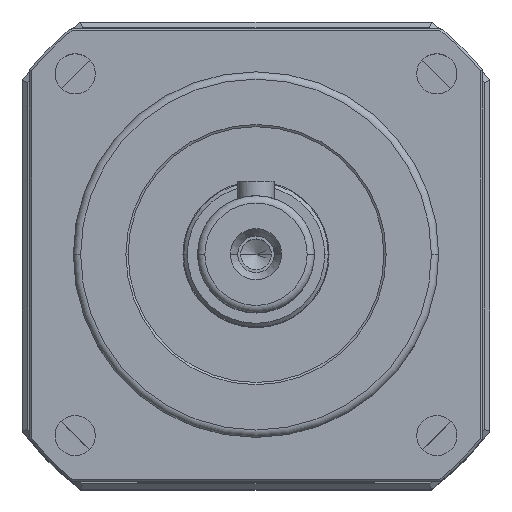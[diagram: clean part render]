
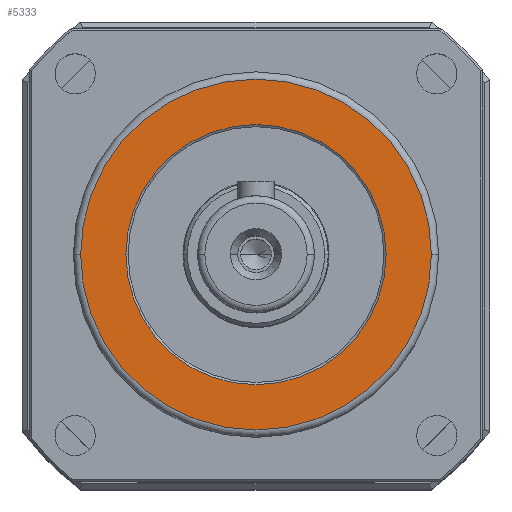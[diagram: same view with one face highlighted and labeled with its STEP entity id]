
A CAD part, top view. The second image highlights one B-rep face of the part: STEP entity #5333.
In plain terms, the highlighted planar face has unit normal (0, 0, 1).
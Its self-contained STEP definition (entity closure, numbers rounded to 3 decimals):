
#501 = DIRECTION ( 'NONE',  ( 0., 0., 1. ) ) ;
#727 = EDGE_LOOP ( 'NONE', ( #5237, #16130 ) ) ;
#733 = CARTESIAN_POINT ( 'NONE',  ( 0., 0., 7. ) ) ;
#887 = VERTEX_POINT ( 'NONE', #2267 ) ;
#994 = VERTEX_POINT ( 'NONE', #13257 ) ;
#1234 = FACE_OUTER_BOUND ( 'NONE', #6270, .T. ) ;
#1845 = CARTESIAN_POINT ( 'NONE',  ( 0., 0., 7. ) ) ;
#1992 = CIRCLE ( 'NONE', #6703, 24. ) ;
#2267 = CARTESIAN_POINT ( 'NONE',  ( 17.8, 0., 7. ) ) ;
#2610 = DIRECTION ( 'NONE',  ( 1., 0., 0. ) ) ;
#3445 = AXIS2_PLACEMENT_3D ( 'NONE', #1845, #501, #8136 ) ;
#4154 = CARTESIAN_POINT ( 'NONE',  ( 0., 0., 7. ) ) ;
#4668 = DIRECTION ( 'NONE',  ( 0., 0., -1. ) ) ;
#5212 = AXIS2_PLACEMENT_3D ( 'NONE', #12305, #4668, #13555 ) ;
#5237 = ORIENTED_EDGE ( 'NONE', *, *, #9156, .T. ) ;
#5333 = ADVANCED_FACE ( 'NONE', ( #7208, #1234 ), #11976, .T. ) ;
#6270 = EDGE_LOOP ( 'NONE', ( #13514, #11222 ) ) ;
#6703 = AXIS2_PLACEMENT_3D ( 'NONE', #4154, #11813, #7786 ) ;
#7208 = FACE_BOUND ( 'NONE', #727, .T. ) ;
#7565 = CIRCLE ( 'NONE', #9058, 24. ) ;
#7786 = DIRECTION ( 'NONE',  ( 1., 0., 0. ) ) ;
#7941 = CARTESIAN_POINT ( 'NONE',  ( 24., 0., 7. ) ) ;
#8136 = DIRECTION ( 'NONE',  ( 1., 0., 0. ) ) ;
#8370 = DIRECTION ( 'NONE',  ( 0., 0., -1. ) ) ;
#9058 = AXIS2_PLACEMENT_3D ( 'NONE', #11977, #16455, #2610 ) ;
#9156 = EDGE_CURVE ( 'NONE', #887, #13663, #15499, .T. ) ;
#9251 = EDGE_CURVE ( 'NONE', #994, #11077, #7565, .T. ) ;
#9700 = EDGE_CURVE ( 'NONE', #11077, #994, #1992, .T. ) ;
#10748 = EDGE_CURVE ( 'NONE', #13663, #887, #15498, .T. ) ;
#11077 = VERTEX_POINT ( 'NONE', #7941 ) ;
#11222 = ORIENTED_EDGE ( 'NONE', *, *, #9251, .T. ) ;
#11813 = DIRECTION ( 'NONE',  ( 0., 0., 1. ) ) ;
#11972 = CARTESIAN_POINT ( 'NONE',  ( -17.8, 0., 7. ) ) ;
#11976 = PLANE ( 'NONE',  #3445 ) ;
#11977 = CARTESIAN_POINT ( 'NONE',  ( 0., 0., 7. ) ) ;
#12305 = CARTESIAN_POINT ( 'NONE',  ( 0., 0., 7. ) ) ;
#13257 = CARTESIAN_POINT ( 'NONE',  ( -24., 0., 7. ) ) ;
#13514 = ORIENTED_EDGE ( 'NONE', *, *, #9700, .T. ) ;
#13555 = DIRECTION ( 'NONE',  ( 1., 0., 0. ) ) ;
#13663 = VERTEX_POINT ( 'NONE', #11972 ) ;
#15498 = CIRCLE ( 'NONE', #5212, 17.8 ) ;
#15499 = CIRCLE ( 'NONE', #16097, 17.8 ) ;
#15911 = DIRECTION ( 'NONE',  ( 1., 0., 0. ) ) ;
#16097 = AXIS2_PLACEMENT_3D ( 'NONE', #733, #8370, #15911 ) ;
#16130 = ORIENTED_EDGE ( 'NONE', *, *, #10748, .T. ) ;
#16455 = DIRECTION ( 'NONE',  ( 0., 0., 1. ) ) ;
